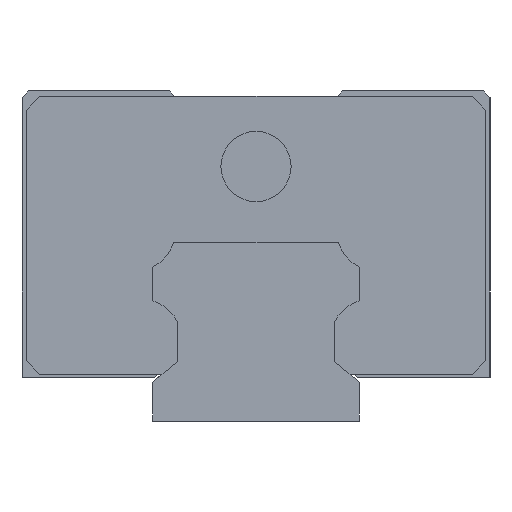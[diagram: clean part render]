
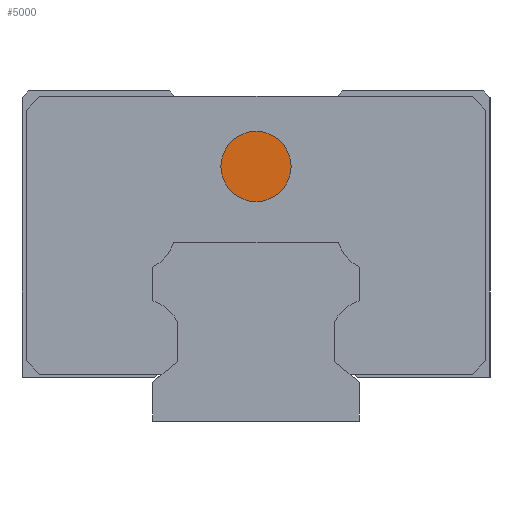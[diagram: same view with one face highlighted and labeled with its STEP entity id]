
A CAD part, left-side view. The second image highlights one B-rep face of the part: STEP entity #5000.
In plain terms, the highlighted planar face has unit normal (-1, 0, 0).
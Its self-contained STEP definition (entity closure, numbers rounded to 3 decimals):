
#1 = ORIENTED_EDGE ( 'NONE', *, *, #3309, .F. ) ;
#240 = CIRCLE ( 'NONE', #1526, 2.55 ) ;
#305 = FACE_OUTER_BOUND ( 'NONE', #3660, .T. ) ;
#578 = CARTESIAN_POINT ( 'NONE',  ( -19.75, 0., 21.05 ) ) ;
#856 = CARTESIAN_POINT ( 'NONE',  ( -19.75, 0., 15.95 ) ) ;
#1055 = VERTEX_POINT ( 'NONE', #856 ) ;
#1526 = AXIS2_PLACEMENT_3D ( 'NONE', #4773, #3396, #2978 ) ;
#1667 = ORIENTED_EDGE ( 'NONE', *, *, #5419, .F. ) ;
#1693 = DIRECTION ( 'NONE',  ( -1., 0., 0. ) ) ;
#2073 = PLANE ( 'NONE',  #3168 ) ;
#2978 = DIRECTION ( 'NONE',  ( 0., 0., -1. ) ) ;
#3168 = AXIS2_PLACEMENT_3D ( 'NONE', #3853, #1693, #3819 ) ;
#3309 = EDGE_CURVE ( 'NONE', #3374, #1055, #4938, .T. ) ;
#3374 = VERTEX_POINT ( 'NONE', #578 ) ;
#3396 = DIRECTION ( 'NONE',  ( 1., 0., 0. ) ) ;
#3642 = AXIS2_PLACEMENT_3D ( 'NONE', #5502, #4093, #4958 ) ;
#3660 = EDGE_LOOP ( 'NONE', ( #1, #1667 ) ) ;
#3819 = DIRECTION ( 'NONE',  ( 0., 0., -1. ) ) ;
#3853 = CARTESIAN_POINT ( 'NONE',  ( -19.75, 0., 18.5 ) ) ;
#4093 = DIRECTION ( 'NONE',  ( 1., 0., 0. ) ) ;
#4773 = CARTESIAN_POINT ( 'NONE',  ( -19.75, 0., 18.5 ) ) ;
#4938 = CIRCLE ( 'NONE', #3642, 2.55 ) ;
#4958 = DIRECTION ( 'NONE',  ( 0., 0., -1. ) ) ;
#5000 = ADVANCED_FACE ( 'NONE', ( #305 ), #2073, .T. ) ;
#5419 = EDGE_CURVE ( 'NONE', #1055, #3374, #240, .T. ) ;
#5502 = CARTESIAN_POINT ( 'NONE',  ( -19.75, 0., 18.5 ) ) ;
